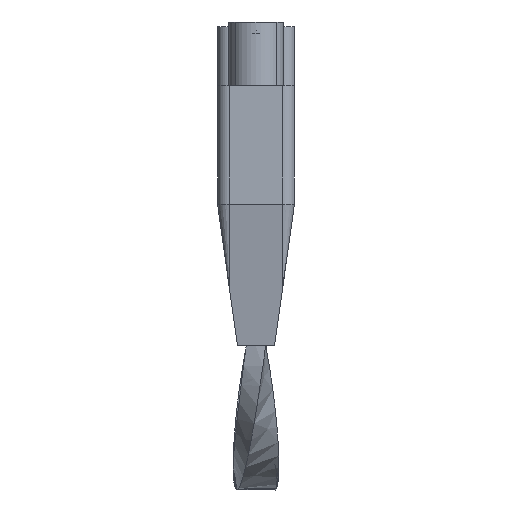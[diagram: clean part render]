
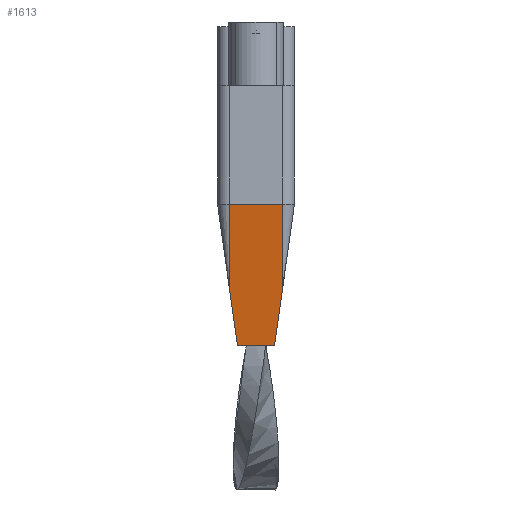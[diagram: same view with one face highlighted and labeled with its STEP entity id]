
A CAD part, left-side view. The second image highlights one B-rep face of the part: STEP entity #1613.
In plain terms, the highlighted planar face has unit normal (-0.99, 0, -0.139).
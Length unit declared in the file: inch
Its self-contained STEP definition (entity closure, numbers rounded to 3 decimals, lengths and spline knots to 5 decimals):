
#144=PLANE('',#1793);
#209=FACE_OUTER_BOUND('',#306,.T.);
#306=EDGE_LOOP('',(#1232,#1233,#1234,#1235,#1236,#1237));
#407=LINE('',#2623,#567);
#418=LINE('',#2645,#578);
#427=LINE('',#2666,#587);
#428=LINE('',#2669,#588);
#429=LINE('',#2673,#589);
#430=LINE('',#2674,#590);
#567=VECTOR('',#1943,10.);
#578=VECTOR('',#1966,10.);
#587=VECTOR('',#1987,10.);
#588=VECTOR('',#1990,10.);
#589=VECTOR('',#1995,10.);
#590=VECTOR('',#1996,10.);
#764=VERTEX_POINT('',#2620);
#765=VERTEX_POINT('',#2622);
#770=VERTEX_POINT('',#2643);
#776=VERTEX_POINT('',#2663);
#777=VERTEX_POINT('',#2668);
#778=VERTEX_POINT('',#2672);
#925=EDGE_CURVE('',#765,#764,#407,.T.);
#936=EDGE_CURVE('',#770,#764,#418,.T.);
#947=EDGE_CURVE('',#776,#765,#427,.T.);
#948=EDGE_CURVE('',#777,#776,#428,.T.);
#950=EDGE_CURVE('',#778,#770,#429,.T.);
#951=EDGE_CURVE('',#778,#777,#430,.T.);
#1232=ORIENTED_EDGE('',*,*,#950,.F.);
#1233=ORIENTED_EDGE('',*,*,#951,.T.);
#1234=ORIENTED_EDGE('',*,*,#948,.T.);
#1235=ORIENTED_EDGE('',*,*,#947,.T.);
#1236=ORIENTED_EDGE('',*,*,#925,.T.);
#1237=ORIENTED_EDGE('',*,*,#936,.F.);
#1613=ADVANCED_FACE('',(#209),#144,.T.);
#1793=AXIS2_PLACEMENT_3D('',#2671,#1993,#1994);
#1943=DIRECTION('',(0.,-1.,0.));
#1966=DIRECTION('',(0.138,0.138,-0.981));
#1987=DIRECTION('',(0.138,-0.138,-0.981));
#1990=DIRECTION('',(0.139,0.,-0.99));
#1993=DIRECTION('center_axis',(-0.99,0.,-0.139));
#1994=DIRECTION('ref_axis',(0.,1.,0.));
#1995=DIRECTION('',(0.139,0.,-0.99));
#1996=DIRECTION('',(0.,1.,0.));
#2620=CARTESIAN_POINT('',(-4.62702,-20.45902,524.32));
#2622=CARTESIAN_POINT('',(-4.62702,-14.20498,524.32));
#2623=CARTESIAN_POINT('',(-4.62702,-21.832,524.32));
#2643=CARTESIAN_POINT('',(-6.,-21.832,534.08926));
#2645=CARTESIAN_POINT('',(-5.91449,-21.74649,533.48086));
#2663=CARTESIAN_POINT('',(-6.,-12.832,534.08926));
#2666=CARTESIAN_POINT('',(-5.88599,-12.94601,533.27806));
#2668=CARTESIAN_POINT('',(-8.,-12.832,548.32));
#2669=CARTESIAN_POINT('',(-8.,-12.832,548.32));
#2671=CARTESIAN_POINT('Origin',(-8.,-12.832,548.32));
#2672=CARTESIAN_POINT('',(-8.,-21.832,548.32));
#2673=CARTESIAN_POINT('',(-8.,-21.832,548.32));
#2674=CARTESIAN_POINT('',(-8.,-10.832,548.32));
